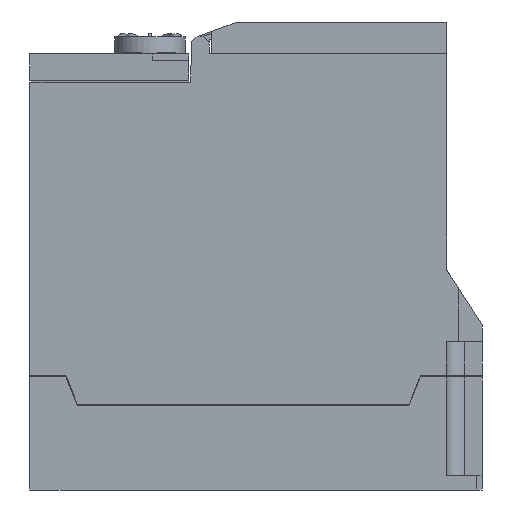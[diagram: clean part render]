
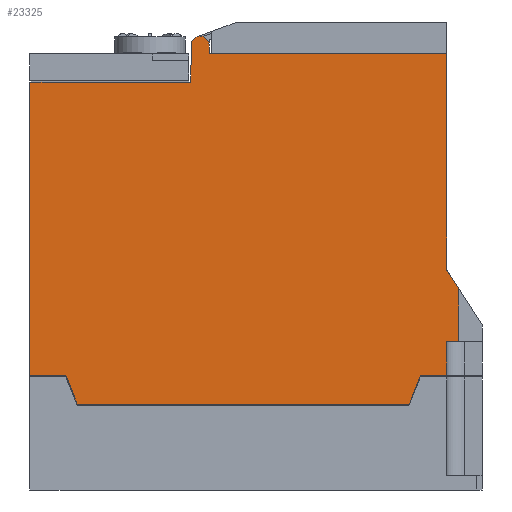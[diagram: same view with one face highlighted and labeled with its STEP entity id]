
A CAD part, left-side view. The second image highlights one B-rep face of the part: STEP entity #23325.
In plain terms, the highlighted planar face has unit normal (-1, 0, 0).
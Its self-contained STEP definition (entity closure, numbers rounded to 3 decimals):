
#1943=DIRECTION('',(0.,-0.362,0.932));
#1944=VECTOR('',#1943,8.796);
#1945=CARTESIAN_POINT('',(-34.,20.589,-7.7));
#1946=LINE('',#1945,#1944);
#2429=DIRECTION('',(0.,-0.362,-0.932));
#2430=VECTOR('',#2429,8.796);
#2431=CARTESIAN_POINT('',(-34.,117.794,0.5));
#2432=LINE('',#2431,#2430);
#2576=DIRECTION('',(0.,-1.,0.));
#2577=VECTOR('',#2576,45.516);
#2578=CARTESIAN_POINT('',(-34.,128.,83.5));
#2579=LINE('',#2578,#2577);
#6148=DIRECTION('',(0.,-1.,0.));
#6149=VECTOR('',#6148,3.4);
#6150=CARTESIAN_POINT('',(-34.,10.,10.));
#6151=LINE('',#6150,#6149);
#6184=DIRECTION('',(0.,0.,1.));
#6185=VECTOR('',#6184,9.5);
#6186=CARTESIAN_POINT('',(-34.,10.,0.5));
#6187=LINE('',#6186,#6185);
#6212=DIRECTION('',(0.,-1.,0.));
#6213=VECTOR('',#6212,67.256);
#6214=CARTESIAN_POINT('',(-34.,77.256,91.5));
#6215=LINE('',#6214,#6213);
#6328=DIRECTION('',(0.,-1.,0.));
#6329=VECTOR('',#6328,10.206);
#6330=CARTESIAN_POINT('',(-34.,128.,0.5));
#6331=LINE('',#6330,#6329);
#6332=DIRECTION('',(0.,0.,1.));
#6333=VECTOR('',#6332,83.);
#6334=CARTESIAN_POINT('',(-34.,128.,0.5));
#6335=LINE('',#6334,#6333);
#6336=DIRECTION('',(0.,-0.017,1.));
#6337=VECTOR('',#6336,10.545);
#6338=CARTESIAN_POINT('',(-34.,82.484,83.5));
#6339=LINE('',#6338,#6337);
#6340=CARTESIAN_POINT('',(-34.,79.8,94.));
#6341=DIRECTION('',(1.,0.,0.));
#6342=DIRECTION('',(0.,1.,0.017));
#6343=AXIS2_PLACEMENT_3D('',#6340,#6341,#6342);
#6345=DIRECTION('',(0.,-0.017,-1.));
#6346=VECTOR('',#6345,2.544);
#6347=CARTESIAN_POINT('',(-34.,77.3,94.044));
#6348=LINE('',#6347,#6346);
#6349=DIRECTION('',(0.,0.,-1.));
#6350=VECTOR('',#6349,61.224);
#6351=CARTESIAN_POINT('',(-34.,10.,91.5));
#6352=LINE('',#6351,#6350);
#6353=DIRECTION('',(0.,-0.541,-0.841));
#6354=VECTOR('',#6353,6.281);
#6355=CARTESIAN_POINT('',(-34.,10.,30.276));
#6356=LINE('',#6355,#6354);
#6357=DIRECTION('',(0.,1.,0.));
#6358=VECTOR('',#6357,7.406);
#6359=CARTESIAN_POINT('',(-34.,10.,0.5));
#6360=LINE('',#6359,#6358);
#6415=DIRECTION('',(0.,0.,-1.));
#6416=VECTOR('',#6415,14.994);
#6417=CARTESIAN_POINT('',(-34.,6.6,24.994));
#6418=LINE('',#6417,#6416);
#6463=DIRECTION('',(0.,-1.,0.));
#6464=VECTOR('',#6463,94.021);
#6465=CARTESIAN_POINT('',(-34.,114.611,-7.7));
#6466=LINE('',#6465,#6464);
#9980=CARTESIAN_POINT('',(-34.,114.611,-7.7));
#9981=CARTESIAN_POINT('',(-34.,20.589,-7.7));
#9982=VERTEX_POINT('',#9980);
#9983=VERTEX_POINT('',#9981);
#10062=CARTESIAN_POINT('',(-34.,128.,83.5));
#10063=VERTEX_POINT('',#10062);
#10066=CARTESIAN_POINT('',(-34.,10.,91.5));
#10068=VERTEX_POINT('',#10066);
#10074=CARTESIAN_POINT('',(-34.,82.3,94.044));
#10075=CARTESIAN_POINT('',(-34.,77.3,94.044));
#10076=VERTEX_POINT('',#10074);
#10077=VERTEX_POINT('',#10075);
#10082=CARTESIAN_POINT('',(-34.,77.256,91.5));
#10083=VERTEX_POINT('',#10082);
#10317=CARTESIAN_POINT('',(-34.,128.,0.5));
#10319=VERTEX_POINT('',#10317);
#10404=CARTESIAN_POINT('',(-34.,117.794,0.5));
#10406=VERTEX_POINT('',#10404);
#10409=CARTESIAN_POINT('',(-34.,17.406,0.5));
#10411=VERTEX_POINT('',#10409);
#10416=CARTESIAN_POINT('',(-34.,10.,0.5));
#10417=VERTEX_POINT('',#10416);
#10476=CARTESIAN_POINT('',(-34.,82.484,83.5));
#10477=VERTEX_POINT('',#10476);
#10596=CARTESIAN_POINT('',(-34.,6.6,10.));
#10598=VERTEX_POINT('',#10596);
#10604=CARTESIAN_POINT('',(-34.,10.,10.));
#10605=VERTEX_POINT('',#10604);
#10608=CARTESIAN_POINT('',(-34.,10.,30.276));
#10609=CARTESIAN_POINT('',(-34.,6.6,24.994));
#10610=VERTEX_POINT('',#10608);
#10611=VERTEX_POINT('',#10609);
#23297=CARTESIAN_POINT('',(-34.,128.,-7.7));
#23298=DIRECTION('',(-1.,0.,0.));
#23299=DIRECTION('',(0.,-1.,0.));
#23300=AXIS2_PLACEMENT_3D('',#23297,#23298,#23299);
#23301=PLANE('',#23300);
#23302=ORIENTED_EDGE('',*,*,#15585,.F.);
#23303=ORIENTED_EDGE('',*,*,#15682,.F.);
#23304=ORIENTED_EDGE('',*,*,#15866,.T.);
#23305=ORIENTED_EDGE('',*,*,#15889,.T.);
#23307=ORIENTED_EDGE('',*,*,#23306,.T.);
#23309=ORIENTED_EDGE('',*,*,#23308,.T.);
#23311=ORIENTED_EDGE('',*,*,#23310,.T.);
#23312=ORIENTED_EDGE('',*,*,#23049,.T.);
#23313=ORIENTED_EDGE('',*,*,#22976,.T.);
#23314=ORIENTED_EDGE('',*,*,#22845,.T.);
#23316=ORIENTED_EDGE('',*,*,#23315,.T.);
#23317=ORIENTED_EDGE('',*,*,#22936,.F.);
#23318=ORIENTED_EDGE('',*,*,#23022,.F.);
#23319=ORIENTED_EDGE('',*,*,#14459,.T.);
#23320=ORIENTED_EDGE('',*,*,#14559,.F.);
#23322=ORIENTED_EDGE('',*,*,#23321,.F.);
#23323=EDGE_LOOP('',(#23302,#23303,#23304,#23305,#23307,#23309,#23311,#23312,
#23313,#23314,#23316,#23317,#23318,#23319,#23320,#23322));
#23324=FACE_OUTER_BOUND('',#23323,.F.);
#23325=ADVANCED_FACE('',(#23324),#23301,.T.);
#6344=CIRCLE('',#6343,2.5);
#14459=EDGE_CURVE('',#10417,#10411,#6360,.T.);
#14559=EDGE_CURVE('',#9983,#10411,#1946,.T.);
#15585=EDGE_CURVE('',#10406,#9982,#2432,.T.);
#15682=EDGE_CURVE('',#10319,#10406,#6331,.T.);
#15866=EDGE_CURVE('',#10319,#10063,#6335,.T.);
#15889=EDGE_CURVE('',#10063,#10477,#2579,.T.);
#22845=EDGE_CURVE('',#10610,#10611,#6356,.T.);
#22936=EDGE_CURVE('',#10605,#10598,#6151,.T.);
#22976=EDGE_CURVE('',#10068,#10610,#6352,.T.);
#23022=EDGE_CURVE('',#10417,#10605,#6187,.T.);
#23049=EDGE_CURVE('',#10083,#10068,#6215,.T.);
#23306=EDGE_CURVE('',#10477,#10076,#6339,.T.);
#23308=EDGE_CURVE('',#10076,#10077,#6344,.T.);
#23310=EDGE_CURVE('',#10077,#10083,#6348,.T.);
#23315=EDGE_CURVE('',#10611,#10598,#6418,.T.);
#23321=EDGE_CURVE('',#9982,#9983,#6466,.T.);
